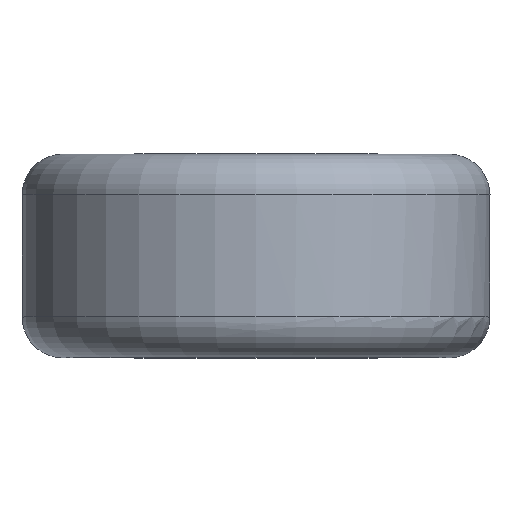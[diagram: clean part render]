
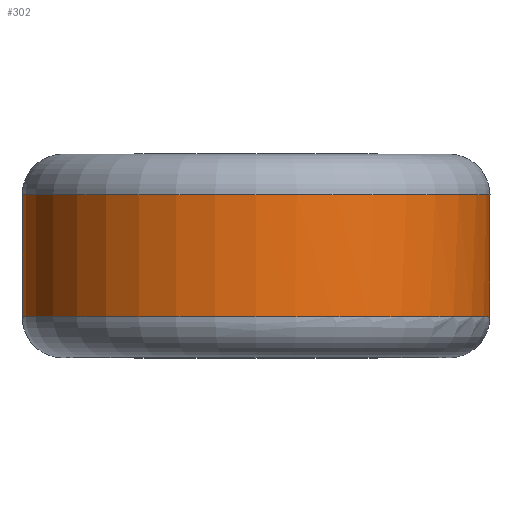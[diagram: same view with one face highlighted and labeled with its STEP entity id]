
A CAD part, top view. The second image highlights one B-rep face of the part: STEP entity #302.
In plain terms, the highlighted cylindrical face has radius 5.75 mm (diameter 11.5 mm), a full revolution.
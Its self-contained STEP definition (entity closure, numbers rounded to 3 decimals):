
#24=B_SPLINE_CURVE_WITH_KNOTS('',3,(#974,#975,#976,#977,#978,#979,#980,
#981,#982,#983),.UNSPECIFIED.,.F.,.F.,(4,1,1,1,1,1,1,4),(-0.222,
-0.19,-0.158,-0.127,-0.095,
-0.063,-0.032,0.),.UNSPECIFIED.);
#26=B_SPLINE_CURVE_WITH_KNOTS('',3,(#1052,#1053,#1054,#1055,#1056,#1057,
#1058,#1059,#1060,#1061),.UNSPECIFIED.,.F.,.F.,(4,1,1,1,1,1,1,4),(-0.222,
-0.19,-0.158,-0.127,-0.095,
-0.063,-0.032,0.),.UNSPECIFIED.);
#72=FACE_OUTER_BOUND('',#92,.T.);
#92=EDGE_LOOP('',(#241,#242,#243,#244,#245,#246,#247,#248,#249,#250));
#105=LINE('',#1046,#108);
#108=VECTOR('',#407,5.75);
#120=CIRCLE('',#347,5.75);
#121=CIRCLE('',#348,5.75);
#122=CIRCLE('',#349,5.75);
#123=CIRCLE('',#351,5.75);
#124=CIRCLE('',#352,5.75);
#125=CIRCLE('',#353,5.75);
#143=VERTEX_POINT('',#970);
#144=VERTEX_POINT('',#972);
#147=VERTEX_POINT('',#1038);
#148=VERTEX_POINT('',#1041);
#149=VERTEX_POINT('',#1045);
#150=VERTEX_POINT('',#1047);
#151=VERTEX_POINT('',#1049);
#152=VERTEX_POINT('',#1051);
#176=EDGE_CURVE('',#143,#144,#24,.T.);
#181=EDGE_CURVE('',#144,#147,#120,.T.);
#182=EDGE_CURVE('',#148,#143,#121,.T.);
#183=EDGE_CURVE('',#147,#148,#122,.T.);
#184=EDGE_CURVE('',#148,#149,#105,.T.);
#185=EDGE_CURVE('',#149,#150,#123,.T.);
#186=EDGE_CURVE('',#150,#151,#124,.T.);
#187=EDGE_CURVE('',#151,#152,#26,.T.);
#188=EDGE_CURVE('',#152,#149,#125,.T.);
#241=ORIENTED_EDGE('',*,*,#176,.T.);
#242=ORIENTED_EDGE('',*,*,#181,.T.);
#243=ORIENTED_EDGE('',*,*,#183,.T.);
#244=ORIENTED_EDGE('',*,*,#184,.T.);
#245=ORIENTED_EDGE('',*,*,#185,.T.);
#246=ORIENTED_EDGE('',*,*,#186,.T.);
#247=ORIENTED_EDGE('',*,*,#187,.T.);
#248=ORIENTED_EDGE('',*,*,#188,.T.);
#249=ORIENTED_EDGE('',*,*,#184,.F.);
#250=ORIENTED_EDGE('',*,*,#182,.T.);
#292=CYLINDRICAL_SURFACE('',#350,5.75);
#302=ADVANCED_FACE('',(#72),#292,.T.);
#347=AXIS2_PLACEMENT_3D('',#1040,#399,#400);
#348=AXIS2_PLACEMENT_3D('',#1042,#401,#402);
#349=AXIS2_PLACEMENT_3D('',#1043,#403,#404);
#350=AXIS2_PLACEMENT_3D('',#1044,#405,#406);
#351=AXIS2_PLACEMENT_3D('',#1048,#408,#409);
#352=AXIS2_PLACEMENT_3D('',#1050,#410,#411);
#353=AXIS2_PLACEMENT_3D('',#1062,#412,#413);
#399=DIRECTION('center_axis',(0.,-1.,0.));
#400=DIRECTION('ref_axis',(-1.,0.,0.));
#401=DIRECTION('center_axis',(0.,-1.,0.));
#402=DIRECTION('ref_axis',(-1.,0.,0.));
#403=DIRECTION('center_axis',(0.,-1.,0.));
#404=DIRECTION('ref_axis',(-1.,0.,0.));
#405=DIRECTION('center_axis',(0.,-1.,0.));
#406=DIRECTION('ref_axis',(1.,0.,0.));
#407=DIRECTION('',(0.,-1.,0.));
#408=DIRECTION('center_axis',(0.,1.,0.));
#409=DIRECTION('ref_axis',(-1.,0.,0.));
#410=DIRECTION('center_axis',(0.,1.,0.));
#411=DIRECTION('ref_axis',(-1.,0.,0.));
#412=DIRECTION('center_axis',(0.,1.,0.));
#413=DIRECTION('ref_axis',(-1.,0.,0.));
#970=CARTESIAN_POINT('',(-3.395,1.5,-4.641));
#972=CARTESIAN_POINT('',(-2.531,1.5,-5.163));
#974=CARTESIAN_POINT('Ctrl Pts',(-3.395,1.5,-4.641));
#975=CARTESIAN_POINT('Ctrl Pts',(-3.429,1.404,-4.616));
#976=CARTESIAN_POINT('Ctrl Pts',(-3.453,1.186,-4.598));
#977=CARTESIAN_POINT('Ctrl Pts',(-3.341,0.888,-4.682));
#978=CARTESIAN_POINT('Ctrl Pts',(-3.113,0.716,-4.838));
#979=CARTESIAN_POINT('Ctrl Pts',(-2.836,0.716,-5.005));
#980=CARTESIAN_POINT('Ctrl Pts',(-2.593,0.889,-5.134));
#981=CARTESIAN_POINT('Ctrl Pts',(-2.465,1.186,-5.195));
#982=CARTESIAN_POINT('Ctrl Pts',(-2.492,1.404,-5.182));
#983=CARTESIAN_POINT('Ctrl Pts',(-2.531,1.5,-5.163));
#1038=CARTESIAN_POINT('',(0.,1.5,-5.75));
#1040=CARTESIAN_POINT('Origin',(0.,1.5,0.));
#1041=CARTESIAN_POINT('',(-5.75,1.5,0.));
#1042=CARTESIAN_POINT('Origin',(0.,1.5,0.));
#1043=CARTESIAN_POINT('Origin',(0.,1.5,0.));
#1044=CARTESIAN_POINT('Origin',(0.,0.,0.));
#1045=CARTESIAN_POINT('',(-5.75,-1.5,0.));
#1046=CARTESIAN_POINT('',(-5.75,0.,0.));
#1047=CARTESIAN_POINT('',(0.,-1.5,5.75));
#1048=CARTESIAN_POINT('Origin',(0.,-1.5,0.));
#1049=CARTESIAN_POINT('',(3.395,-1.5,-4.641));
#1050=CARTESIAN_POINT('Origin',(0.,-1.5,0.));
#1051=CARTESIAN_POINT('',(2.531,-1.5,-5.163));
#1052=CARTESIAN_POINT('Ctrl Pts',(3.395,-1.5,-4.641));
#1053=CARTESIAN_POINT('Ctrl Pts',(3.429,-1.404,-4.616));
#1054=CARTESIAN_POINT('Ctrl Pts',(3.453,-1.186,-4.598));
#1055=CARTESIAN_POINT('Ctrl Pts',(3.341,-0.888,-4.682));
#1056=CARTESIAN_POINT('Ctrl Pts',(3.113,-0.716,-4.838));
#1057=CARTESIAN_POINT('Ctrl Pts',(2.836,-0.716,-5.005));
#1058=CARTESIAN_POINT('Ctrl Pts',(2.593,-0.889,-5.134));
#1059=CARTESIAN_POINT('Ctrl Pts',(2.465,-1.186,-5.195));
#1060=CARTESIAN_POINT('Ctrl Pts',(2.492,-1.404,-5.182));
#1061=CARTESIAN_POINT('Ctrl Pts',(2.531,-1.5,-5.163));
#1062=CARTESIAN_POINT('Origin',(0.,-1.5,0.));
